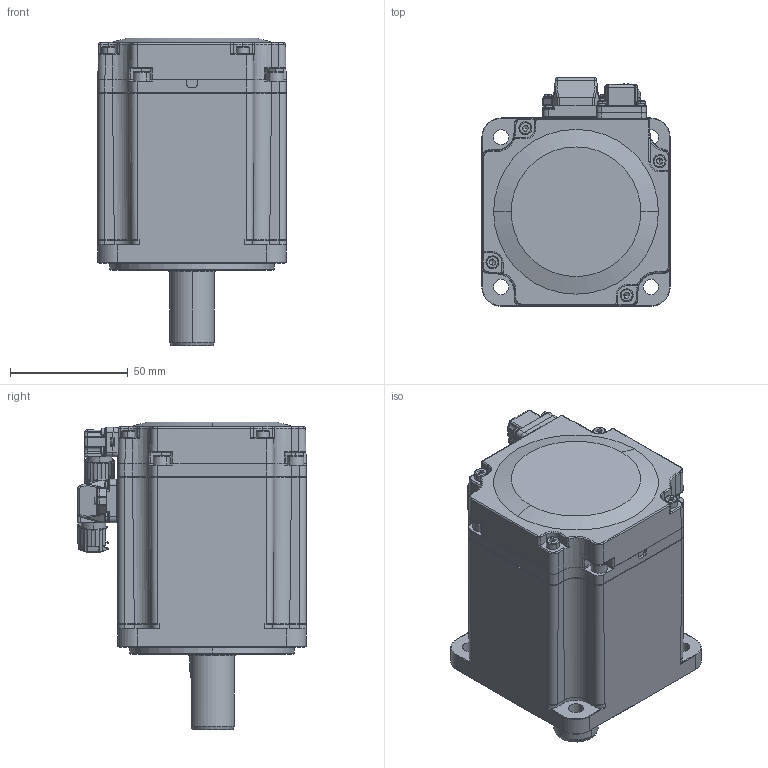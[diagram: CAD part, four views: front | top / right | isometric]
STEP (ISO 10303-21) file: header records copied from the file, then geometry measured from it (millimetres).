
FILE_DESCRIPTION (( 'STEP AP214' ), '1' );
FILE_NAME ('ACM0H 750W.STEP', '2023-07-27T07:57:21', ( 'Windows 蚚誧' ), ( 'Organization' ), 'SwSTEP 2.0', 'SolidWorks 2021', '' );
FILE_SCHEMA (( 'AUTOMOTIVE_DESIGN' ));
Length unit declared in the file: millimetre
Products named in the file (1): ACM0H  750W
Bounding box: 80 x 97 x 130.7 mm (x, y, z)
Surface area: 53501.2 mm2 (no closed solid volume)
Topology: 0 solids, 49 shells, 1239 faces, 4486 edges, 3113 vertices
Faces by surface type: cylinder 458, plane 446, torus 148, bspline 110, cone 55, sphere 22
Entity records: 66836 total; most frequent: CARTESIAN_POINT 17524, DIRECTION 7122, ORIENTED_EDGE 6947, EDGE_CURVE 4474, VERTEX_POINT 3113, AXIS2_PLACEMENT_3D 2661, LINE 1800, VECTOR 1800
